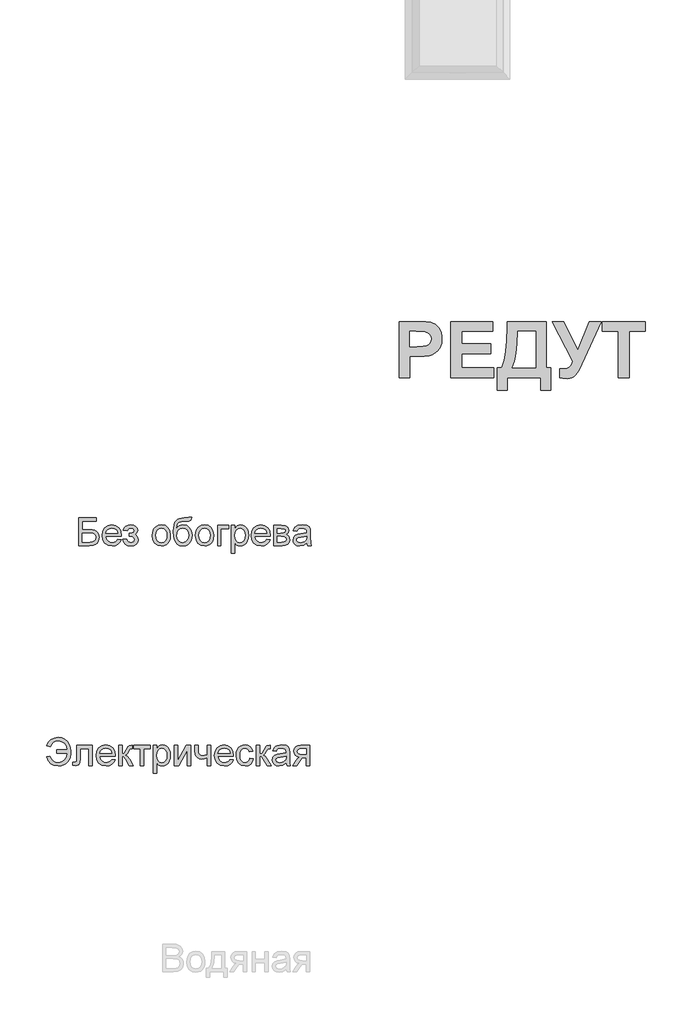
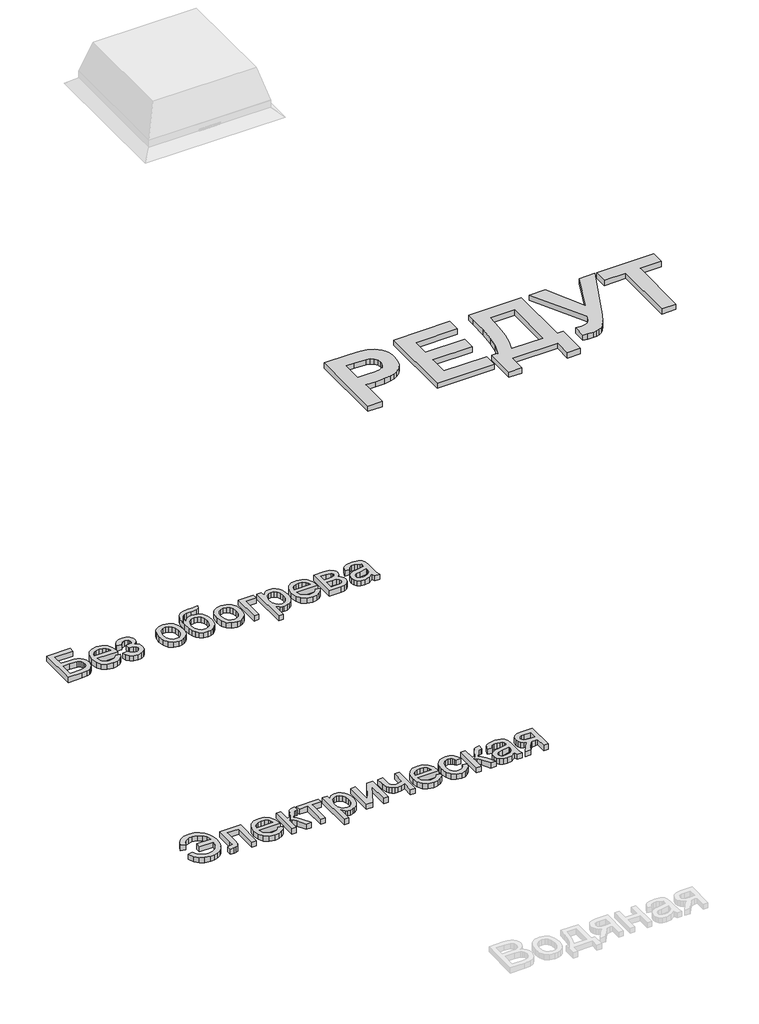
# One storey, part 2 of 8: 3 proxies.
"""IFC4 building model written with IfcOpenShell, lengths in millimetres."""

import ifcopenshell
import ifcopenshell.guid

model = None  # the IFC model being written
_history = None  # IfcOwnerHistory: only IFC2X3 demands one
_inside = {}  # id of a spatial element -> (the spatial element, [elements in it])
_under = {}  # id of a project, library or spatial element -> (it, [spatial elements below it])
_declared = {}  # id of a project -> (the project, [libraries it declares])
_typed = {}  # id of a type object -> (the type object, [elements of that type])
_made_of = {}  # id of a material, layer set ... -> (it, [elements and type objects made of it])


def new_model(schema):
    """Start an empty IFC model of exactly this schema.

    Asked for "IFC4X3", IfcOpenShell would pick the latest addendum, in which some entities
    have other attributes; the version numbers below select the first issue.
    IFC2X3 requires an IfcOwnerHistory on every rooted entity: one is made here for all.
    """
    global model, _history
    if schema == "IFC4X3":
        model = ifcopenshell.file(schema_version=(4, 3, 0, 0))
    else:
        model = ifcopenshell.file(schema=schema)
    _inside.clear()
    _under.clear()
    _declared.clear()
    _typed.clear()
    _made_of.clear()
    _history = None
    if model.schema == "IFC2X3":
        org = make("IfcOrganization", Name="unknown")
        user = make(
            "IfcPersonAndOrganization",
            ThePerson=make("IfcPerson", FamilyName="unknown"),
            TheOrganization=org,
        )
        app = make(
            "IfcApplication",
            ApplicationDeveloper=org,
            Version="unknown",
            ApplicationFullName="unknown",
            ApplicationIdentifier="unknown",
        )
        _history = make(
            "IfcOwnerHistory",
            OwningUser=user,
            OwningApplication=app,
            ChangeAction="ADDED",
            CreationDate=0,
        )
    return model


def make(cls, **values):
    """One entity of the class cls with the attributes given. An attribute that is None is left unset."""
    return model.create_entity(
        cls, **{name: value for name, value in values.items() if value is not None}
    )


def rooted(cls, **values):
    """An entity with a GlobalId (a new one), such as an element, a storey or a relation."""
    return make(cls, GlobalId=ifcopenshell.guid.new(), OwnerHistory=_history, **values)


def si_unit(unit_type, name, prefix=None):
    """IfcSIUnit, for example si_unit("LENGTHUNIT", "METRE", prefix="MILLI")."""
    return make("IfcSIUnit", UnitType=unit_type, Prefix=prefix, Name=name)


def assignment(units):
    """IfcUnitAssignment: the units of a project."""
    return None if units is None else make("IfcUnitAssignment", Units=units)


def point(xyz):
    """IfcCartesianPoint."""
    return None if xyz is None else make("IfcCartesianPoint", Coordinates=xyz)


def direction(xyz):
    """IfcDirection."""
    return None if xyz is None else make("IfcDirection", DirectionRatios=xyz)


def frame(location, z_axis=None, x_axis=None):
    """IfcAxis2Placement3D, a coordinate frame: its origin and axes. An axis left out is left unset."""
    return make(
        "IfcAxis2Placement3D",
        Location=point(location),
        Axis=direction(z_axis),
        RefDirection=direction(x_axis),
    )


def origin():
    """The frame at (0, 0, 0) with its axes left unset."""
    return frame((0.0, 0.0, 0.0))


def origin_with_axes():
    """The frame at (0, 0, 0) with the z axis (0, 0, 1) and the x axis (1, 0, 0) written out."""
    return frame((0.0, 0.0, 0.0), z_axis=(0.0, 0.0, 1.0), x_axis=(1.0, 0.0, 0.0))


def place(relative_to, where):
    """IfcLocalPlacement: puts the frame where relative to a parent placement (None: the world)."""
    return make(
        "IfcLocalPlacement", PlacementRelTo=relative_to, RelativePlacement=where
    )


def context(
    kind, dimensions, precision=None, world=None, true_north=None, identifier=None
):
    """IfcGeometricRepresentationContext, for example the 3D "Model" context."""
    return make(
        "IfcGeometricRepresentationContext",
        ContextIdentifier=identifier,
        ContextType=kind,
        CoordinateSpaceDimension=dimensions,
        Precision=precision,
        WorldCoordinateSystem=world,
        TrueNorth=true_north,
    )


def project(units=None, contexts=None):
    """IfcProject with its units and contexts."""
    return rooted(
        "IfcProject",
        Name="project",
        RepresentationContexts=contexts,
        UnitsInContext=assignment(units),
    )


def spatial(cls, under=None, at=None, **own):
    """A site, building, storey or space (cls), placed at a placement, below another one or the project."""
    s = rooted(cls, ObjectPlacement=at, **own)
    if under is not None:
        _under.setdefault(under.id(), (under, []))[1].append(s)
    return s


def polyline(points):
    """IfcPolyline through the points."""
    return make("IfcPolyline", Points=[point(p) for p in points])


def outline(outer, holes=None, kind="AREA"):
    """IfcArbitraryClosedProfileDef: a profile drawn as a closed curve; with holes, ...WithVoids."""
    if holes is None:
        return make("IfcArbitraryClosedProfileDef", ProfileType=kind, OuterCurve=outer)
    return make(
        "IfcArbitraryProfileDefWithVoids",
        ProfileType=kind,
        OuterCurve=outer,
        InnerCurves=holes,
    )


def extrude(swept, where, along, depth):
    """IfcExtrudedAreaSolid: the profile swept, set in the frame where, extruded along a direction by depth."""
    return make(
        "IfcExtrudedAreaSolid",
        SweptArea=swept,
        Position=where,
        ExtrudedDirection=direction(along),
        Depth=depth,
    )


def shape(context_of_items, identifier, shape_type, items):
    """IfcShapeRepresentation: the items that make up one representation, for example the "Body"."""
    return make(
        "IfcShapeRepresentation",
        ContextOfItems=context_of_items,
        RepresentationIdentifier=identifier,
        RepresentationType=shape_type,
        Items=items,
    )


def made_of(thing, what):
    """Note that an element or type object is made of a material, layer set ...; save() writes the relation."""
    if what is not None:
        _made_of.setdefault(what.id(), (what, []))[1].append(thing)
    return thing


def element(
    cls,
    number,
    at=None,
    inside=None,
    cuts=None,
    type_object=None,
    material=None,
    context=None,
    identifier="Body",
    shape_type=None,
    held_by="IfcProductDefinitionShape",
    body=None,
    shapes=None,
    **own,
):
    """One element of the class cls, such as IfcWall. Its Tag is "e" and its number.

    at: its placement. inside: the storey or other place that contains it. cuts: it is an
    opening in that element (IfcRelVoidsElement). A single representation is given by context,
    identifier, shape_type and body (its items); several are given by shapes. held_by: the class
    of the entity that holds the representations. save() writes the other relations.
    """
    e = rooted(cls, Tag="e%d" % number, ObjectPlacement=at, **own)
    if body is not None:
        shapes = [shape(context, identifier, shape_type, body)]
    if shapes is not None:
        e.Representation = make(held_by, Representations=shapes)
    if inside is not None:
        _inside.setdefault(inside.id(), (inside, []))[1].append(e)
    if cuts is not None:
        rooted(
            "IfcRelVoidsElement", RelatingBuildingElement=cuts, RelatedOpeningElement=e
        )
    if type_object is not None:
        _typed.setdefault(type_object.id(), (type_object, []))[1].append(e)
    return made_of(e, material)


def aggregate(whole, parts):
    """IfcRelAggregates: a whole, such as a stair, and the parts it consists of."""
    return rooted("IfcRelAggregates", RelatingObject=whole, RelatedObjects=parts)


def save(model, path):
    """Write the relations noted so far, then the file.

    IfcRelAggregates (storeys below a building ...), IfcRelContainedInSpatialStructure (elements
    in a storey), IfcRelDefinesByType, IfcRelAssociatesMaterial and IfcRelDeclares: one each for
    every whole, place, type object, material and project.
    """
    for whole, parts in _under.values():
        aggregate(whole, parts)
    for where, things in _inside.values():
        rooted(
            "IfcRelContainedInSpatialStructure",
            RelatedElements=things,
            RelatingStructure=where,
        )
    for kind, things in _typed.values():
        rooted("IfcRelDefinesByType", RelatedObjects=things, RelatingType=kind)
    for what, things in _made_of.values():
        rooted("IfcRelAssociatesMaterial", RelatedObjects=things, RelatingMaterial=what)
    for by, libraries in _declared.values():
        rooted("IfcRelDeclares", RelatingContext=by, RelatedDefinitions=libraries)
    model.write(path)


model = new_model("IFC4")

# Units and contexts
model_context = context("Model", 3, world=origin())
ifc_project = project(units=[si_unit("LENGTHUNIT", "METRE", prefix="MILLI")], contexts=[model_context])

# Site, building, storey
site = spatial("IfcSite", under=ifc_project)
building = spatial("IfcBuilding", under=site)
storey = spatial("IfcBuildingStorey", under=building, Name="Уровень 1", Elevation=0.0)

# Proxies
placement = place(None, origin())
element("IfcBuildingElementProxy", 1, Name="ИЗТТ_Текст1", ObjectType="ИЗТТ_Текст1", at=placement, inside=storey, context=model_context, shape_type="SweptSolid", body=[
    extrude(outline(polyline([(-15334.2458566, -5327.1451362), (-15334.2458566, -4919.0413763), (-15202.7659995, -4919.0413763), (-15140.9988071, -4920.5596194), (-15105.2947889, -4925.1143489), (-15073.2219023, -4939.600919), (-15046.8424275, -4964.8417114), (-15036.5468411, -4981.2608785), (-15029.1928508, -4999.9004763), (-15024.7804566, -5020.7605046), (-15023.3096586, -5043.8409636), (-15026.7636617, -5078.216519), (-15037.1256713, -5106.6456221), (-15052.8141839, -5129.3686613), (-15072.2476963, -5146.6260251), (-15093.7181849, -5158.7087102), (-15115.5176262, -5165.9077132), (-15152.0819821, -5170.2347062), (-15202.057486, -5171.6770372), (-15256.5118071, -5171.6770372), (-15256.5118071, -5327.1451362), (-15334.2458566, -5327.1451362)]), holes=[polyline([(-15256.5118071, -4990.2975883), (-15256.5118071, -5100.4208251), (-15208.2316748, -5100.4208251), (-15164.7466605, -5098.902582), (-15138.544314, -5094.3478525), (-15122.8811055, -5086.5415523), (-15111.0135048, -5075.2685969), (-15103.5361573, -5061.2121957), (-15101.0437081, -5045.0555581), (-15104.5483194, -5025.748566), (-15115.0621532, -5010.1359655), (-15130.9151422, -4998.9515743), (-15150.4372187, -4992.9292098), (-15213.8997826, -4990.2975883), (-15256.5118071, -4990.2975883)])]), origin_with_axes(), (0.0, 0.0, 1.0), 30.0),
    extrude(outline(polyline([(-14958.531284, -5327.1451362), (-14958.531284, -4919.0413763), (-14654.0729233, -4919.0413763), (-14654.0729233, -4990.2975883), (-14880.7972344, -4990.2975883), (-14880.7972344, -5080.9873128), (-14667.0285983, -5080.9873128), (-14667.0285983, -5152.2435248), (-14880.7972344, -5152.2435248), (-14880.7972344, -5255.8889242), (-14647.5950859, -5255.8889242), (-14647.5950859, -5327.1451362), (-14958.531284, -5327.1451362)])), origin_with_axes(), (0.0, 0.0, 1.0), 30.0),
    extrude(outline(polyline([(-14550.427524, -4919.0413763), (-14265.4026757, -4919.0413763), (-14265.4026757, -5255.8889242), (-14233.0134884, -5255.8889242), (-14233.0134884, -5417.8348607), (-14304.2697005, -5417.8348607), (-14304.2697005, -5327.1451362), (-14550.427524, -5327.1451362), (-14550.427524, -5417.8348607), (-14621.683736, -5417.8348607), (-14621.683736, -5255.8889242), (-14589.2945487, -5255.8889242), (-14569.5700398, -5199.7898396), (-14557.9681317, -5135.3404177), (-14552.3126759, -5057.6569763), (-14550.427524, -4961.8558332), (-14550.427524, -4919.0413763)]), holes=[polyline([(-14472.6934745, -4990.2975883), (-14475.1226635, -5075.2179888), (-14482.4102307, -5147.7900116), (-14494.5561759, -5208.0136567), (-14511.5604992, -5255.8889242), (-14343.1367253, -5255.8889242), (-14343.1367253, -4990.2975883), (-14472.6934745, -4990.2975883)])]), origin_with_axes(), (0.0, 0.0, 1.0), 30.0),
    extrude(outline(polyline([(-14223.2967322, -4919.0413763), (-14136.8580886, -4919.0413763), (-14034.6297162, -5126.332175), (-13951.1263427, -4919.0413763), (-13867.0156719, -4919.0413763), (-14006.1879611, -5230.281223), (-14028.759176, -5274.7657474), (-14051.7352558, -5307.2055428), (-14064.1721976, -5318.7631688), (-14078.304511, -5327.018616), (-14094.1321959, -5331.9718843), (-14111.6552523, -5333.6229737), (-14143.8673112, -5332.332467), (-14168.2351138, -5328.460947), (-14168.2351138, -5261.3545995), (-14136.8580886, -5262.3667616), (-14112.5408941, -5259.7224881), (-14096.2703883, -5251.7896677), (-14084.2762674, -5235.126949), (-14072.7882275, -5206.2929811), (-14223.2967322, -4919.0413763)])), origin_with_axes(), (0.0, 0.0, 1.0), 30.0),
    extrude(outline(polyline([(-13740.6978415, -5327.1451362), (-13740.6978415, -4990.2975883), (-13857.2989158, -4990.2975883), (-13857.2989158, -4919.0413763), (-13546.3627177, -4919.0413763), (-13546.3627177, -4990.2975883), (-13662.963792, -4990.2975883), (-13662.963792, -5327.1451362), (-13740.6978415, -5327.1451362)])), origin_with_axes(), (0.0, 0.0, 1.0), 30.0),
])
element("IfcBuildingElementProxy", 2, Name="ИЗТТ_Текст2", ObjectType="ИЗТТ_Текст2", at=placement, inside=storey, context=model_context, shape_type="SweptSolid", body=[
    extrude(outline(polyline([(-17663.3582471, -6346.4215412), (-17537.7878594, -6346.4215412), (-17537.7878594, -6371.5356187), (-17638.2441696, -6371.5356187), (-17638.2441696, -6431.1815529), (-17591.2043251, -6431.1815529), (-17567.819293, -6432.4568771), (-17549.756287, -6436.2828499), (-17535.8871358, -6443.6527525), (-17525.0836679, -6455.5598664), (-17518.1306981, -6470.8882829), (-17515.8130416, -6488.5220932), (-17517.4623792, -6503.3293435), (-17522.410392, -6517.1433124), (-17530.6325546, -6529.2404987), (-17542.1043415, -6538.8974011), (-17559.7994655, -6545.2249714), (-17586.6916393, -6547.3341615), (-17663.3582471, -6547.3341615), (-17663.3582471, -6346.4215412)]), holes=[polyline([(-17638.2441696, -6522.220084), (-17584.4352964, -6522.220084), (-17565.4157973, -6520.1476821), (-17551.8164262, -6513.9304763), (-17543.6494459, -6503.5684668), (-17540.9271191, -6489.0616535), (-17542.4844862, -6478.2581855), (-17547.1565876, -6469.3922295), (-17554.606198, -6462.8194045), (-17564.4960923, -6458.8953299), (-17602.3388868, -6456.2956304), (-17638.2441696, -6456.2956304), (-17638.2441696, -6522.220084)])]), origin_with_axes(), (0.0, 0.0, 1.0), 30.0),
    extrude(outline(polyline([(-17381.1191804, -6503.3845258), (-17356.4956122, -6506.5237855), (-17365.3676996, -6525.0773008), (-17379.5250251, -6538.946452), (-17398.6487575, -6547.5916789), (-17422.4200657, -6550.4734212), (-17451.8874135, -6545.5008829), (-17474.5612072, -6530.583268), (-17489.0189696, -6506.6893324), (-17493.8382237, -6474.7878321), (-17488.9699187, -6441.8133426), (-17474.3650035, -6417.1529861), (-17451.9977781, -6401.7755187), (-17423.8425428, -6396.6496963), (-17396.5640928, -6401.763256), (-17374.7670846, -6417.1039352), (-17360.4748691, -6441.7152407), (-17355.7107973, -6474.6406793), (-17355.8579501, -6481.409708), (-17468.7241462, -6481.409708), (-17464.3770073, -6500.2084779), (-17454.2786465, -6514.0285782), (-17439.7043881, -6522.5266523), (-17421.9295564, -6525.3593437), (-17397.3059882, -6520.1108939), (-17388.1579892, -6513.3050769), (-17381.1191804, -6503.3845258)]), holes=[polyline([(-17468.7241462, -6456.2956304), (-17380.8248748, -6456.2956304), (-17384.2216519, -6443.0273531), (-17390.880316, -6433.5359977), (-17405.5220194, -6424.7068298), (-17423.9406446, -6421.7637738), (-17440.8693478, -6424.1120872), (-17454.8672577, -6431.1570274), (-17464.5977365, -6442.138305), (-17468.7241462, -6456.2956304)])]), origin_with_axes(), (0.0, 0.0, 1.0), 30.0),
    extrude(outline(polyline([(-17296.0648631, -6481.409708), (-17296.0648631, -6456.2956304), (-17276.2482863, -6455.3146118), (-17266.241896, -6450.0906874), (-17261.5330065, -6439.1768549), (-17263.1087677, -6432.0338128), (-17267.8360514, -6426.4971888), (-17284.0964355, -6421.7637738), (-17300.89638, -6426.4726634), (-17311.7611616, -6440.599332), (-17340.0144988, -6437.4600723), (-17332.5219688, -6419.6055328), (-17321.1298897, -6406.8522903), (-17305.8382615, -6399.2003448), (-17286.647084, -6396.6496963), (-17265.6532849, -6399.7582991), (-17249.7607827, -6409.0841077), (-17239.7543924, -6422.7263984), (-17236.418929, -6438.7844475), (-17241.1646067, -6454.3826441), (-17255.4016399, -6466.4491735), (-17238.7978992, -6482.096421), (-17233.2796693, -6504.6107991), (-17236.7806796, -6523.0968694), (-17247.2837106, -6537.7447042), (-17264.0775236, -6547.2912419), (-17286.4508803, -6550.4734212), (-17308.3337277, -6547.5303652), (-17325.0784898, -6538.7011973), (-17336.6851668, -6523.9859175), (-17343.1537585, -6503.3845258), (-17314.9004213, -6500.2452661), (-17310.6697783, -6510.864793), (-17303.5696558, -6518.7865187), (-17294.4216569, -6523.7161374), (-17284.0473846, -6525.3593437), (-17273.9428925, -6523.7835824), (-17265.7023358, -6519.0562988), (-17260.2208941, -6511.8764685), (-17258.3937468, -6502.9430674), (-17262.9309581, -6489.7483665), (-17272.5939918, -6482.6850322), (-17291.1597699, -6481.2625552), (-17296.0648631, -6481.409708)])), origin_with_axes(), (0.0, 0.0, 1.0), 30.0),
    extrude(outline(polyline([(-17129.6840994, -6473.5615587), (-17124.2517086, -6437.9873698), (-17117.4612201, -6424.1642038), (-17107.9545363, -6412.9836569), (-17087.8191284, -6400.7331864), (-17063.710595, -6396.6496963), (-17037.3273245, -6401.6222346), (-17016.2538176, -6416.5398495), (-17002.4398487, -6440.2253186), (-16997.8351924, -6471.5014196), (-16999.8708061, -6496.8730145), (-17005.9776472, -6516.1868192), (-17015.9779061, -6530.650713), (-17029.6937731, -6541.472575), (-17045.9848142, -6548.2232097), (-17063.710595, -6550.4734212), (-17090.4126965, -6545.519277), (-17111.4616779, -6530.6568444), (-17125.1284941, -6506.4747346), (-17129.6840994, -6473.5615587)]), holes=[polyline([(-17104.5700219, -6473.5125078), (-17101.6637541, -6496.2414837), (-17092.9449509, -6512.4344229), (-17079.8238264, -6522.1281135), (-17063.710595, -6525.3593437), (-17047.67094, -6522.1097194), (-17034.5743409, -6512.3608465), (-17025.8555377, -6495.9533095), (-17022.9492699, -6472.7276929), (-17025.8739318, -6450.6609045), (-17034.6479173, -6434.6886946), (-17047.7629105, -6424.995004), (-17063.710595, -6421.7637738), (-17079.8238264, -6424.9827413), (-17092.9449509, -6434.6396436), (-17101.6637541, -6450.7957946), (-17104.5700219, -6473.5125078)])]), origin_with_axes(), (0.0, 0.0, 1.0), 30.0),
    extrude(outline(polyline([(-16865.9862853, -6343.2822815), (-16844.0114674, -6343.2822815), (-16850.4861906, -6362.8781291), (-16863.288484, -6369.9659889), (-16894.0434188, -6371.5356187), (-16919.5805606, -6372.9826213), (-16935.4669314, -6377.3236288), (-16944.9705497, -6384.852947), (-16951.3594336, -6395.8648814), (-16956.7305108, -6428.6799553), (-16946.63215, -6414.6513886), (-16934.9764221, -6404.6449983), (-16921.7510644, -6398.6485218), (-16906.9438141, -6396.6496963), (-16880.8119297, -6401.7325992), (-16859.609664, -6416.9813079), (-16845.5565718, -6440.8997689), (-16840.8722078, -6471.9919289), (-16843.1959957, -6495.9655722), (-16850.1673595, -6515.2058006), (-16860.3270339, -6530.1602037), (-16872.2157537, -6541.2763713), (-16887.2743901, -6548.1741587), (-16906.9438141, -6550.4734212), (-16929.6114764, -6547.5119711), (-16946.6014932, -6538.6276209), (-16959.1033496, -6525.1263517), (-16968.3065309, -6508.3141445), (-16973.9719136, -6482.9977319), (-16975.8603745, -6443.9838463), (-16971.0963027, -6395.7974363), (-16965.1412129, -6378.7537701), (-16956.8040872, -6366.4097963), (-16945.9960207, -6357.6649347), (-16932.6281087, -6351.418605), (-16898.2127481, -6346.4215412), (-16870.2537164, -6345.8574555), (-16865.9862853, -6343.2822815)]), holes=[polyline([(-16865.9862853, -6471.207114), (-16868.7086121, -6451.4457195), (-16876.8755924, -6435.6206623), (-16889.9967168, -6425.2279959), (-16907.5814762, -6421.7637738), (-16925.9142623, -6425.4241997), (-16939.5136334, -6436.4054772), (-16947.9381311, -6453.5058586), (-16950.746297, -6475.523596), (-16947.6438255, -6496.8668831), (-16938.336411, -6512.5325248), (-16924.4795225, -6522.1526389), (-16907.728629, -6525.3593437), (-16890.8918964, -6521.6498669), (-16877.5623054, -6510.5214365), (-16868.8802903, -6493.2739023), (-16865.9862853, -6471.207114)])]), origin_with_axes(), (0.0, 0.0, 1.0), 30.0),
    extrude(outline(polyline([(-16815.7581302, -6473.5615587), (-16810.3257394, -6437.9873698), (-16803.5352509, -6424.1642038), (-16794.028567, -6412.9836569), (-16773.8931592, -6400.7331864), (-16749.7846258, -6396.6496963), (-16723.4013553, -6401.6222346), (-16702.3278484, -6416.5398495), (-16688.5138795, -6440.2253186), (-16683.9092231, -6471.5014196), (-16685.9448369, -6496.8730145), (-16692.051678, -6516.1868192), (-16702.0519369, -6530.650713), (-16715.7678039, -6541.472575), (-16732.0588449, -6548.2232097), (-16749.7846258, -6550.4734212), (-16776.4867272, -6545.519277), (-16797.5357087, -6530.6568444), (-16811.2025248, -6506.4747346), (-16815.7581302, -6473.5615587)]), holes=[polyline([(-16790.6440527, -6473.5125078), (-16787.7377849, -6496.2414837), (-16779.0189816, -6512.4344229), (-16765.8978571, -6522.1281135), (-16749.7846258, -6525.3593437), (-16733.7449708, -6522.1097194), (-16720.6483717, -6512.3608465), (-16711.9295684, -6495.9533095), (-16709.0233007, -6472.7276929), (-16711.9479625, -6450.6609045), (-16720.7219481, -6434.6886946), (-16733.8369413, -6424.995004), (-16749.7846258, -6421.7637738), (-16765.8978571, -6424.9827413), (-16779.0189816, -6434.6396436), (-16787.7377849, -6450.7957946), (-16790.6440527, -6473.5125078)])]), origin_with_axes(), (0.0, 0.0, 1.0), 30.0),
    extrude(outline(polyline([(-16655.6558859, -6399.788956), (-16574.0351339, -6399.788956), (-16574.0351339, -6424.9030335), (-16630.5418084, -6424.9030335), (-16630.5418084, -6547.3341615), (-16655.6558859, -6547.3341615), (-16655.6558859, -6399.788956)])), origin_with_axes(), (0.0, 0.0, 1.0), 30.0),
    extrude(outline(polyline([(-16555.1995758, -6603.840836), (-16555.1995758, -6399.788956), (-16530.0854982, -6399.788956), (-16530.0854982, -6424.4125242), (-16512.7214681, -6403.5904033), (-16502.0283647, -6398.384873), (-16489.2751222, -6396.6496963), (-16472.2912368, -6399.0777174), (-16457.4410669, -6406.3617809), (-16445.350012, -6418.0604284), (-16436.6434715, -6433.7322014), (-16431.3827589, -6452.2366657), (-16429.6291881, -6472.4333873), (-16431.6096195, -6493.9115644), (-16437.5509137, -6513.1211359), (-16447.2629984, -6529.0872145), (-16460.5558011, -6540.8349129), (-16476.0375018, -6548.0637941), (-16492.3162801, -6550.4734212), (-16503.8616433, -6548.8608718), (-16514.1684706, -6544.0232235), (-16530.0854982, -6527.7137884), (-16530.0854982, -6603.840836), (-16555.1995758, -6603.840836)]), holes=[polyline([(-16530.0854982, -6474.7387811), (-16527.3693028, -6497.2531592), (-16519.2207166, -6512.9985086), (-16507.1971068, -6522.2691349), (-16492.8558403, -6525.3593437), (-16478.2815819, -6522.1587703), (-16465.9514037, -6512.5570502), (-16457.5453001, -6496.2353524), (-16454.7432656, -6472.8748457), (-16457.4778551, -6450.4830949), (-16465.6816236, -6434.5170163), (-16477.6868394, -6424.9520844), (-16491.8257707, -6421.7637738), (-16506.0198844, -6425.1544195), (-16518.4849526, -6435.3263567), (-16527.1853618, -6451.9607543), (-16530.0854982, -6474.7387811)])]), origin_with_axes(), (0.0, 0.0, 1.0), 30.0),
    extrude(outline(polyline([(-16298.0745866, -6503.3845258), (-16273.4510184, -6506.5237855), (-16282.3231058, -6525.0773008), (-16296.4804313, -6538.946452), (-16315.6041637, -6547.5916789), (-16339.3754719, -6550.4734212), (-16368.8428197, -6545.5008829), (-16391.5166134, -6530.583268), (-16405.9743758, -6506.6893324), (-16410.7936299, -6474.7878321), (-16405.9253249, -6441.8133426), (-16391.3204096, -6417.1529861), (-16368.9531843, -6401.7755187), (-16340.797949, -6396.6496963), (-16313.519499, -6401.763256), (-16291.7224908, -6417.1039352), (-16277.4302753, -6441.7152407), (-16272.6662035, -6474.6406793), (-16272.8133563, -6481.409708), (-16385.6795524, -6481.409708), (-16381.3324135, -6500.2084779), (-16371.2340527, -6514.0285782), (-16356.6597943, -6522.5266523), (-16338.8849626, -6525.3593437), (-16314.2613944, -6520.1108939), (-16305.1133954, -6513.3050769), (-16298.0745866, -6503.3845258)]), holes=[polyline([(-16385.6795524, -6456.2956304), (-16297.780281, -6456.2956304), (-16301.1770581, -6443.0273531), (-16307.8357222, -6433.5359977), (-16322.4774256, -6424.7068298), (-16340.8960508, -6421.7637738), (-16357.824754, -6424.1120872), (-16371.8226639, -6431.1570274), (-16381.5531427, -6442.138305), (-16385.6795524, -6456.2956304)])]), origin_with_axes(), (0.0, 0.0, 1.0), 30.0),
    extrude(outline(polyline([(-16247.5521259, -6399.788956), (-16192.2226739, -6399.788956), (-16161.884672, -6403.1489449), (-16144.8149474, -6415.460729), (-16139.4622644, -6425.3015723), (-16137.6780367, -6436.920512), (-16141.9945188, -6454.3581186), (-16154.9930159, -6466.79253), (-16145.6978642, -6472.010323), (-16138.1194951, -6480.4041638), (-16133.0795118, -6491.311865), (-16131.3995173, -6504.0712389), (-16135.6546857, -6523.2133654), (-16145.7714406, -6536.6901091), (-16161.7865701, -6544.6731484), (-16183.7368625, -6547.3341615), (-16247.5521259, -6547.3341615), (-16247.5521259, -6399.788956)]), holes=[polyline([(-16222.4380484, -6456.2956304), (-16197.6182765, -6456.2956304), (-16177.1395121, -6455.0203062), (-16167.1821727, -6449.9190092), (-16162.7921142, -6440.6974338), (-16164.7173634, -6433.2049039), (-16170.4931107, -6428.3856497), (-16196.8334615, -6424.9030335), (-16222.4380484, -6424.9030335), (-16222.4380484, -6456.2956304)]), polyline([(-16222.4380484, -6522.220084), (-16191.6340627, -6522.220084), (-16174.846381, -6521.0857811), (-16164.3126932, -6517.6828727), (-16158.6595732, -6511.4963238), (-16156.5135949, -6502.0110997), (-16160.8055515, -6489.9200448), (-16171.9891641, -6482.8812359), (-16194.0866093, -6481.409708), (-16222.4380484, -6481.409708), (-16222.4380484, -6522.220084)])]), origin_with_axes(), (0.0, 0.0, 1.0), 30.0),
    extrude(outline(polyline([(-16005.8291296, -6528.4986033), (-16030.1829177, -6545.519277), (-16057.0873543, -6550.4734212), (-16078.0750221, -6547.493577), (-16093.5567228, -6538.5540445), (-16103.1032605, -6524.9791989), (-16106.2854398, -6508.0934153), (-16101.4784484, -6488.2277876), (-16088.8478332, -6473.8068134), (-16071.2630738, -6465.5662567), (-16049.5335107, -6461.7893349), (-16005.9762824, -6453.1563707), (-16005.8291296, -6447.5645644), (-16007.558175, -6436.3564263), (-16012.7453111, -6429.0233119), (-16024.3458567, -6423.5786583), (-16040.508139, -6421.7637738), (-16055.4686735, -6422.971653), (-16065.9165222, -6426.5952907), (-16073.0411702, -6433.2968744), (-16078.0321026, -6443.7385917), (-16103.1461801, -6440.599332), (-16092.2813985, -6416.0738656), (-16083.023035, -6407.8210462), (-16070.4046825, -6401.7019423), (-16037.2707775, -6396.6496963), (-16006.8346738, -6401.1133312), (-15989.6423218, -6412.3214693), (-15981.9413254, -6429.3666684), (-15980.7150521, -6451.3414862), (-15980.7150521, -6482.5869303), (-15979.4397278, -6526.217735), (-15974.4365327, -6547.3341615), (-15999.5506103, -6547.3341615), (-16005.8291296, -6528.4986033)]), holes=[polyline([(-16005.8291296, -6478.2704483), (-16046.3452, -6485.9714447), (-16067.9521359, -6490.0426721), (-16077.737797, -6496.664548), (-16081.1713622, -6506.3275818), (-16079.3012954, -6513.7955863), (-16073.691095, -6519.9146901), (-16064.4633883, -6523.9981803), (-16051.7408026, -6525.3593437), (-16038.2517961, -6523.8571588), (-16026.3324195, -6519.3506044), (-16009.949408, -6504.8070029), (-16005.9762824, -6485.3828335), (-16005.8291296, -6478.2704483)])]), origin_with_axes(), (0.0, 0.0, 1.0), 30.0),
])
element("IfcBuildingElementProxy", 3, Name="ИЗТТ_Текст2", ObjectType="ИЗТТ_Текст2", at=placement, inside=storey, context=model_context, shape_type="SweptSolid", body=[
    extrude(outline(polyline([(-17823.4604914, -8031.1815529), (-17748.1182588, -8031.1815529), (-17753.6487515, -8005.2765291), (-17766.904766, -7985.3434563), (-17787.2854285, -7972.6331334), (-17814.1898651, -7968.396359), (-17834.4693601, -7970.9470075), (-17850.6224454, -7978.598953), (-17862.6491209, -7991.3521955), (-17870.5493868, -8009.206735), (-17895.6634643, -8002.9282157), (-17884.9213101, -7977.9367655), (-17867.4101271, -7959.0766818), (-17843.976044, -7947.2308816), (-17815.4651894, -7943.2822815), (-17788.0825062, -7946.9059192), (-17764.7955759, -7957.7768321), (-17746.2972429, -7974.282471), (-17733.2803517, -7994.8102863), (-17725.5732239, -8018.5448064), (-17723.0041813, -8044.6705594), (-17723.7859305, -8066.1502694), (-17727.6517571, -8085.8549487), (-17734.6016612, -8103.7845975), (-17744.6356426, -8119.9392156), (-17757.7291759, -8133.2979305), (-17773.8577357, -8142.8398698), (-17793.021322, -8148.5650333), (-17815.2199347, -8150.4734212), (-17845.2758937, -8146.3531428), (-17869.2250116, -8133.9923078), (-17887.0672884, -8113.3909161), (-17898.802724, -8084.5489677), (-17873.6886465, -8078.2704483), (-17865.2028351, -8098.87184), (-17852.155287, -8113.5871198), (-17834.5460022, -8122.4162877), (-17812.3749806, -8125.3593437), (-17787.3344795, -8120.7362932), (-17767.2481225, -8106.867142), (-17753.6610142, -8084.9781633), (-17748.1182588, -8056.2956304), (-17823.4604914, -8056.2956304), (-17823.4604914, -8031.1815529)])), origin_with_axes(), (0.0, 0.0, 1.0), 30.0),
    extrude(outline(polyline([(-17679.0545456, -7999.788956), (-17566.0411966, -7999.788956), (-17566.0411966, -8147.1870087), (-17591.1552742, -8147.1870087), (-17591.1552742, -8024.9030335), (-17653.940468, -8024.9030335), (-17653.940468, -8095.2911219), (-17655.6327252, -8127.7628394), (-17664.927877, -8141.472575), (-17674.2230287, -8145.8687649), (-17686.9026948, -8147.3341615), (-17707.3078828, -8146.0588373), (-17707.3078828, -8122.220084), (-17696.0752192, -8122.220084), (-17684.7199283, -8120.6749796), (-17680.182717, -8115.7698863), (-17679.0545456, -8093.8686449), (-17679.0545456, -7999.788956)])), origin_with_axes(), (0.0, 0.0, 1.0), 30.0),
    extrude(outline(polyline([(-17425.0688161, -8103.3845258), (-17400.4452479, -8106.5237855), (-17409.3173353, -8125.0773008), (-17423.4746608, -8138.946452), (-17442.5983932, -8147.5916789), (-17466.3697014, -8150.4734212), (-17495.8370492, -8145.5008829), (-17518.5108429, -8130.583268), (-17532.9686053, -8106.6893324), (-17537.7878594, -8074.7878321), (-17532.9195543, -8041.8133426), (-17518.3146391, -8017.1529861), (-17495.9474138, -8001.7755187), (-17467.7921785, -7996.6496963), (-17440.5137285, -8001.763256), (-17418.7167203, -8017.1039352), (-17404.4245048, -8041.7152407), (-17399.660433, -8074.6406793), (-17399.8075858, -8081.409708), (-17512.6737819, -8081.409708), (-17508.326643, -8100.2084779), (-17498.2282822, -8114.0285782), (-17483.6540238, -8122.5266523), (-17465.8791921, -8125.3593437), (-17441.2556239, -8120.1108939), (-17432.1076249, -8113.3050769), (-17425.0688161, -8103.3845258)]), holes=[polyline([(-17512.6737819, -8056.2956304), (-17424.7745105, -8056.2956304), (-17428.1712876, -8043.0273531), (-17434.8299517, -8033.5359977), (-17449.4716551, -8024.7068298), (-17467.8902803, -8021.7637738), (-17484.8189835, -8024.1120872), (-17498.8168934, -8031.1570274), (-17508.5473722, -8042.138305), (-17512.6737819, -8056.2956304)])]), origin_with_axes(), (0.0, 0.0, 1.0), 30.0),
    extrude(outline(polyline([(-17374.5463554, -7999.788956), (-17349.4322779, -7999.788956), (-17349.4322779, -8062.5741498), (-17332.607808, -8058.061464), (-17318.8244959, -8031.7701641), (-17307.3711031, -8009.0841077), (-17297.266611, -8001.7019423), (-17278.8970367, -7999.788956), (-17274.0900453, -7999.788956), (-17274.0900453, -8025.0501863), (-17280.859074, -8024.9030335), (-17293.1218072, -8027.5517839), (-17301.7547713, -8044.0819482), (-17311.8837889, -8061.9610132), (-17326.0840339, -8070.7166046), (-17310.2405827, -8080.490003), (-17294.691437, -8101.079132), (-17267.8115259, -8147.3341615), (-17296.3591687, -8147.3341615), (-17322.6995196, -8102.0601506), (-17335.9432714, -8082.9057614), (-17349.4322779, -8078.2704483), (-17349.4322779, -8147.3341615), (-17374.5463554, -8147.3341615), (-17374.5463554, -7999.788956)])), origin_with_axes(), (0.0, 0.0, 1.0), 30.0),
    extrude(outline(polyline([(-17264.6722662, -7999.788956), (-17145.3803979, -7999.788956), (-17145.3803979, -8024.9030335), (-17192.4692933, -8024.9030335), (-17192.4692933, -8147.3341615), (-17217.5833708, -8147.3341615), (-17217.5833708, -8024.9030335), (-17264.6722662, -8024.9030335), (-17264.6722662, -7999.788956)])), origin_with_axes(), (0.0, 0.0, 1.0), 30.0),
    extrude(outline(polyline([(-17123.4055801, -8203.840836), (-17123.4055801, -7999.788956), (-17098.2915025, -7999.788956), (-17098.2915025, -8024.4125242), (-17080.9274723, -8003.5904033), (-17070.234369, -7998.384873), (-17057.4811265, -7996.6496963), (-17040.4972411, -7999.0777174), (-17025.6470712, -8006.3617809), (-17013.5560163, -8018.0604284), (-17004.8494757, -8033.7322014), (-16999.5887632, -8052.2366657), (-16997.8351924, -8072.4333873), (-16999.8156238, -8093.9115644), (-17005.756918, -8113.1211359), (-17015.4690027, -8129.0872145), (-17028.7618054, -8140.8349129), (-17044.2435061, -8148.0637941), (-17060.5222843, -8150.4734212), (-17072.0676476, -8148.8608718), (-17082.3744749, -8144.0232235), (-17098.2915025, -8127.7137884), (-17098.2915025, -8203.840836), (-17123.4055801, -8203.840836)]), holes=[polyline([(-17098.2915025, -8074.7387811), (-17095.5753071, -8097.2531592), (-17087.4267209, -8112.9985086), (-17075.403111, -8122.2691349), (-17061.0618446, -8125.3593437), (-17046.4875862, -8122.1587703), (-17034.157408, -8112.5570502), (-17025.7513044, -8096.2353524), (-17022.9492699, -8072.8748457), (-17025.6838594, -8050.4830949), (-17033.8876279, -8034.5170163), (-17045.8928437, -8024.9520844), (-17060.031775, -8021.7637738), (-17074.2258887, -8025.1544195), (-17086.6909569, -8035.3263567), (-17095.3913661, -8051.9607543), (-17098.2915025, -8074.7387811)])]), origin_with_axes(), (0.0, 0.0, 1.0), 30.0),
    extrude(outline(polyline([(-16969.5818551, -7999.788956), (-16944.4677776, -7999.788956), (-16944.4677776, -8112.3117956), (-16882.7617043, -7999.788956), (-16850.2899868, -7999.788956), (-16850.2899868, -8147.3341615), (-16875.4040644, -8147.3341615), (-16875.4040644, -8035.498035), (-16936.7177302, -8147.3341615), (-16969.5818551, -8147.3341615), (-16969.5818551, -7999.788956)])), origin_with_axes(), (0.0, 0.0, 1.0), 30.0),
    extrude(outline(polyline([(-16822.0366496, -7999.788956), (-16796.9225721, -7999.788956), (-16796.9225721, -8028.0913441), (-16794.8869584, -8054.6278987), (-16785.1012973, -8068.999822), (-16776.3702313, -8073.5983469), (-16765.6771279, -8075.1311886), (-16730.9981185, -8067.528294), (-16730.9981185, -7999.788956), (-16705.884041, -7999.788956), (-16705.884041, -8147.3341615), (-16730.9981185, -8147.3341615), (-16730.9981185, -8091.612302), (-16752.4333761, -8098.0870251), (-16772.3971057, -8100.2452661), (-16787.5845008, -8097.9950546), (-16800.8711721, -8091.24442), (-16811.2270503, -8081.2318983), (-16817.6220657, -8069.1960257), (-16822.0366496, -8040.5012301), (-16822.0366496, -7999.788956)])), origin_with_axes(), (0.0, 0.0, 1.0), 30.0),
    extrude(outline(polyline([(-16564.9116604, -8103.3845258), (-16540.2880922, -8106.5237855), (-16549.1601797, -8125.0773008), (-16563.3175051, -8138.946452), (-16582.4412375, -8147.5916789), (-16606.2125458, -8150.4734212), (-16635.6798936, -8145.5008829), (-16658.3536872, -8130.583268), (-16672.8114496, -8106.6893324), (-16677.6307038, -8074.7878321), (-16672.7623987, -8041.8133426), (-16658.1574835, -8017.1529861), (-16635.7902582, -8001.7755187), (-16607.6350228, -7996.6496963), (-16580.3565729, -8001.763256), (-16558.5595647, -8017.1039352), (-16544.2673491, -8041.7152407), (-16539.5032773, -8074.6406793), (-16539.6504301, -8081.409708), (-16652.5166262, -8081.409708), (-16648.1694873, -8100.2084779), (-16638.0711265, -8114.0285782), (-16623.4968682, -8122.5266523), (-16605.7220364, -8125.3593437), (-16581.0984682, -8120.1108939), (-16571.9504693, -8113.3050769), (-16564.9116604, -8103.3845258)]), holes=[polyline([(-16652.5166262, -8056.2956304), (-16564.6173548, -8056.2956304), (-16568.0141319, -8043.0273531), (-16574.672796, -8033.5359977), (-16589.3144995, -8024.7068298), (-16607.7331247, -8021.7637738), (-16624.6618278, -8024.1120872), (-16638.6597377, -8031.1570274), (-16648.3902165, -8042.138305), (-16652.5166262, -8056.2956304)])]), origin_with_axes(), (0.0, 0.0, 1.0), 30.0),
    extrude(outline(polyline([(-16420.211409, -8093.9667467), (-16395.0973315, -8097.1060064), (-16402.0993521, -8119.4425749), (-16415.2572648, -8136.3222271), (-16433.3325335, -8146.9356227), (-16455.0866221, -8150.4734212), (-16481.8009864, -8145.5376711), (-16502.6905523, -8130.7304208), (-16516.1734274, -8106.7015951), (-16520.6677192, -8074.101119), (-16518.7486014, -8051.7522878), (-16512.9912482, -8032.3833007), (-16503.303689, -8016.7421846), (-16489.5939533, -8005.576966), (-16473.1925477, -7998.8815137), (-16455.4299787, -7996.6496963), (-16434.2093189, -7999.7153796), (-16417.2438276, -8008.9124294), (-16405.0730649, -8023.7503366), (-16398.2365912, -8043.7385917), (-16423.3506687, -8046.8778514), (-16427.9062741, -8035.9210993), (-16435.0002652, -8028.0668187), (-16444.2402347, -8023.339535), (-16455.2337749, -8021.7637738), (-16471.4635023, -8024.8662453), (-16484.3455035, -8034.1736598), (-16492.7516071, -8050.1887893), (-16495.5536416, -8073.4144059), (-16492.8129208, -8096.9527223), (-16484.5907582, -8113.0230341), (-16471.9417489, -8122.2752663), (-16455.920488, -8125.3593437), (-16442.9158595, -8123.4340945), (-16432.253413, -8117.6583472), (-16424.4972342, -8107.8849489), (-16420.211409, -8093.9667467)])), origin_with_axes(), (0.0, 0.0, 1.0), 30.0),
    extrude(outline(polyline([(-16373.1225136, -7999.788956), (-16348.0084361, -7999.788956), (-16348.0084361, -8062.5741498), (-16331.1839662, -8058.061464), (-16317.4006541, -8031.7701641), (-16305.9472613, -8009.0841077), (-16295.8427692, -8001.7019423), (-16277.4731949, -7999.788956), (-16272.6662035, -7999.788956), (-16272.6662035, -8025.0501863), (-16279.4352322, -8024.9030335), (-16291.6979654, -8027.5517839), (-16300.3309295, -8044.0819482), (-16310.4599471, -8061.9610132), (-16324.6601921, -8070.7166046), (-16308.8167409, -8080.490003), (-16293.2675952, -8101.079132), (-16266.3876841, -8147.3341615), (-16294.9353269, -8147.3341615), (-16321.2756778, -8102.0601506), (-16334.5194296, -8082.9057614), (-16348.0084361, -8078.2704483), (-16348.0084361, -8147.3341615), (-16373.1225136, -8147.3341615), (-16373.1225136, -7999.788956)])), origin_with_axes(), (0.0, 0.0, 1.0), 30.0),
    extrude(outline(polyline([(-16156.5135949, -8128.4986033), (-16180.8673829, -8145.519277), (-16207.7718195, -8150.4734212), (-16228.7594873, -8147.493577), (-16244.241188, -8138.5540445), (-16253.7877258, -8124.9791989), (-16256.969905, -8108.0934153), (-16252.1629136, -8088.2277876), (-16239.5322984, -8073.8068134), (-16221.9475391, -8065.5662567), (-16200.2179759, -8061.7893349), (-16156.6607477, -8053.1563707), (-16156.5135949, -8047.5645644), (-16158.2426402, -8036.3564263), (-16163.4297764, -8029.0233119), (-16175.030322, -8023.5786583), (-16191.1926043, -8021.7637738), (-16206.1531387, -8022.971653), (-16216.6009874, -8026.5952907), (-16223.7256354, -8033.2968744), (-16228.7165678, -8043.7385917), (-16253.8306453, -8040.599332), (-16242.9658637, -8016.0738656), (-16233.7075002, -8007.8210462), (-16221.0891477, -8001.7019423), (-16187.9552427, -7996.6496963), (-16157.519139, -8001.1133312), (-16140.3267871, -8012.3214693), (-16132.6257906, -8029.3666684), (-16131.3995173, -8051.3414862), (-16131.3995173, -8082.5869303), (-16130.1241931, -8126.217735), (-16125.1209979, -8147.3341615), (-16150.2350755, -8147.3341615), (-16156.5135949, -8128.4986033)]), holes=[polyline([(-16156.5135949, -8078.2704483), (-16197.0296653, -8085.9714447), (-16218.6366011, -8090.0426721), (-16228.4222622, -8096.664548), (-16231.8558275, -8106.3275818), (-16229.9857607, -8113.7955863), (-16224.3755602, -8119.9146901), (-16215.1478535, -8123.9981803), (-16202.4252679, -8125.3593437), (-16188.9362614, -8123.8571588), (-16177.0168847, -8119.3506044), (-16160.6338732, -8104.8070029), (-16156.6607477, -8085.3828335), (-16156.5135949, -8078.2704483)])]), origin_with_axes(), (0.0, 0.0, 1.0), 30.0),
    extrude(outline(polyline([(-15983.8543118, -7999.788956), (-15983.8543118, -8147.3341615), (-16008.9683893, -8147.3341615), (-16008.9683893, -8090.827487), (-16022.6535995, -8090.827487), (-16041.292954, -8094.0157977), (-16058.8041369, -8115.4510553), (-16078.8169175, -8147.3341615), (-16107.8550696, -8147.3341615), (-16082.6428902, -8107.0142948), (-16071.5083285, -8092.5442697), (-16061.2566836, -8086.1185975), (-16078.42451, -8080.857885), (-16090.4910395, -8070.8637574), (-16097.6279502, -8057.5709547), (-16100.0069204, -8042.4142165), (-16096.7572961, -8025.2218646), (-16087.0084232, -8011.6102307), (-16071.1036583, -8002.7442747), (-16049.3863579, -7999.788956), (-15983.8543118, -7999.788956)]), holes=[polyline([(-16008.9683893, -8024.9030335), (-16042.0777689, -8024.9030335), (-16059.1781503, -8026.3561674), (-16068.8841036, -8030.715569), (-16074.8928429, -8044.3272029), (-16072.6794195, -8053.8982661), (-16066.0391495, -8060.5385361), (-16053.770285, -8064.4196912), (-16034.6710781, -8065.7134095), (-16008.9683893, -8065.7134095), (-16008.9683893, -8024.9030335)])]), origin_with_axes(), (0.0, 0.0, 1.0), 30.0),
])

save(model, "model.ifc")
